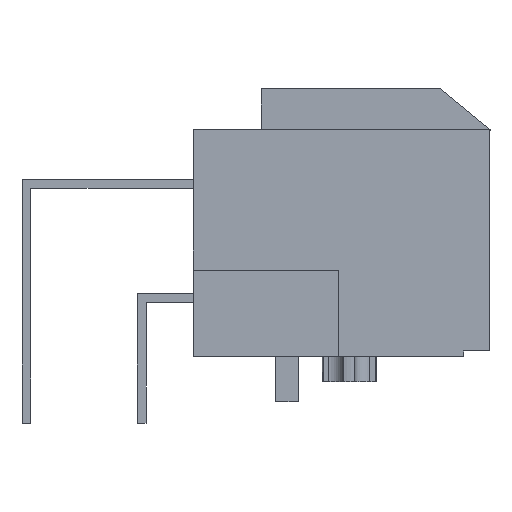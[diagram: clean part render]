
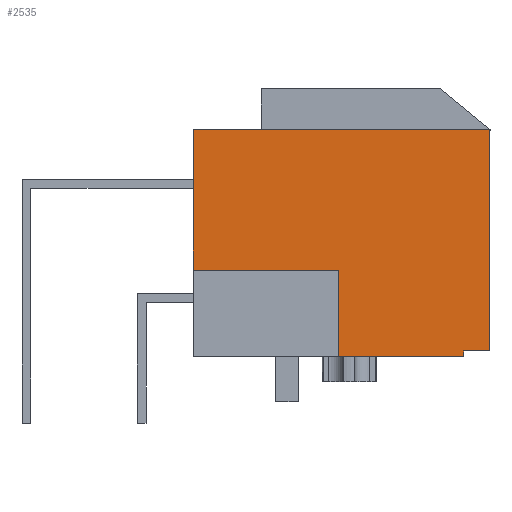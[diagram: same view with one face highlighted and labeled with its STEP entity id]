
A CAD part, left-side view. The second image highlights one B-rep face of the part: STEP entity #2535.
In plain terms, the highlighted planar face has unit normal (-1, 0, 0).
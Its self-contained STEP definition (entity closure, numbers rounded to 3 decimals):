
#5=DIRECTION('',(0.,1.,0.));
#6=VECTOR('',#5,7.1);
#7=CARTESIAN_POINT('',(-3.67,1.5,0.));
#8=LINE('',#7,#6);
#33=DIRECTION('',(0.,1.,0.));
#34=VECTOR('',#33,8.26);
#35=CARTESIAN_POINT('',(-3.67,8.6,4.895));
#36=LINE('',#35,#34);
#37=DIRECTION('',(0.,0.,-1.));
#38=VECTOR('',#37,8.005);
#39=CARTESIAN_POINT('',(-3.67,16.86,12.9));
#40=LINE('',#39,#38);
#41=DIRECTION('',(0.,-1.,0.));
#42=VECTOR('',#41,1.5);
#43=CARTESIAN_POINT('',(-3.67,1.5,0.3));
#44=LINE('',#43,#42);
#45=DIRECTION('',(0.,0.,1.));
#46=VECTOR('',#45,0.3);
#47=CARTESIAN_POINT('',(-3.67,1.5,0.));
#48=LINE('',#47,#46);
#57=DIRECTION('',(0.,0.,1.));
#58=VECTOR('',#57,4.895);
#59=CARTESIAN_POINT('',(-3.67,8.6,0.));
#60=LINE('',#59,#58);
#197=DIRECTION('',(0.,0.,-1.));
#198=VECTOR('',#197,12.6);
#199=CARTESIAN_POINT('',(-3.67,0.,12.9));
#200=LINE('',#199,#198);
#541=DIRECTION('',(0.,1.,0.));
#542=VECTOR('',#541,16.86);
#543=CARTESIAN_POINT('',(-3.67,0.,12.9));
#544=LINE('',#543,#542);
#2067=CARTESIAN_POINT('',(-3.67,0.,12.9));
#2068=CARTESIAN_POINT('',(-3.67,16.86,12.9));
#2069=VERTEX_POINT('',#2067);
#2070=VERTEX_POINT('',#2068);
#2071=CARTESIAN_POINT('',(-3.67,16.86,4.895));
#2072=VERTEX_POINT('',#2071);
#2073=CARTESIAN_POINT('',(-3.67,8.6,4.895));
#2074=VERTEX_POINT('',#2073);
#2075=CARTESIAN_POINT('',(-3.67,8.6,0.));
#2076=VERTEX_POINT('',#2075);
#2077=CARTESIAN_POINT('',(-3.67,1.5,0.));
#2078=VERTEX_POINT('',#2077);
#2079=CARTESIAN_POINT('',(-3.67,1.5,0.3));
#2080=VERTEX_POINT('',#2079);
#2081=CARTESIAN_POINT('',(-3.67,0.,0.3));
#2082=VERTEX_POINT('',#2081);
#2514=CARTESIAN_POINT('',(-3.67,16.,0.));
#2515=DIRECTION('',(1.,0.,0.));
#2516=DIRECTION('',(0.,0.,-1.));
#2517=AXIS2_PLACEMENT_3D('',#2514,#2515,#2516);
#2518=PLANE('',#2517);
#2520=ORIENTED_EDGE('',*,*,#2519,.T.);
#2522=ORIENTED_EDGE('',*,*,#2521,.T.);
#2524=ORIENTED_EDGE('',*,*,#2523,.F.);
#2526=ORIENTED_EDGE('',*,*,#2525,.F.);
#2528=ORIENTED_EDGE('',*,*,#2527,.T.);
#2530=ORIENTED_EDGE('',*,*,#2529,.F.);
#2531=ORIENTED_EDGE('',*,*,#2507,.F.);
#2532=ORIENTED_EDGE('',*,*,#2468,.T.);
#2533=EDGE_LOOP('',(#2520,#2522,#2524,#2526,#2528,#2530,#2531,#2532));
#2534=FACE_OUTER_BOUND('',#2533,.F.);
#2535=ADVANCED_FACE('',(#2534),#2518,.F.);
#2468=EDGE_CURVE('',#2078,#2076,#8,.T.);
#2507=EDGE_CURVE('',#2078,#2080,#48,.T.);
#2519=EDGE_CURVE('',#2076,#2074,#60,.T.);
#2521=EDGE_CURVE('',#2074,#2072,#36,.T.);
#2523=EDGE_CURVE('',#2070,#2072,#40,.T.);
#2525=EDGE_CURVE('',#2069,#2070,#544,.T.);
#2527=EDGE_CURVE('',#2069,#2082,#200,.T.);
#2529=EDGE_CURVE('',#2080,#2082,#44,.T.);
